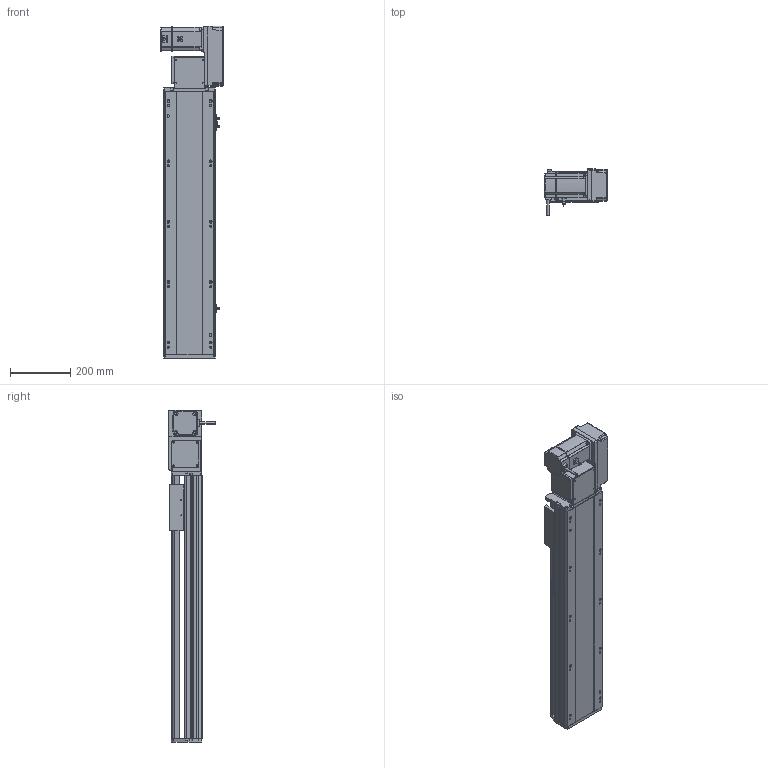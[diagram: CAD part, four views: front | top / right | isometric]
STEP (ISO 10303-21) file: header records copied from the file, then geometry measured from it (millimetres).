
FILE_DESCRIPTION (( 'STEP AP214' ), '1' );
FILE_NAME ('RTB17S-XX-600-R-M75-C4.STEP', '2025-12-12T01:31:15', ( '' ), ( '' ), 'SwSTEP 2.0', 'SolidWorks 2018', '' );
FILE_SCHEMA (( 'AUTOMOTIVE_DESIGN' ));
Length unit declared in the file: millimetre
Products named in the file (15): RTB22S-GY-017P^RTB17S-R-々湍釱蚾饜-750W_RTB17S-XX-XX-R-M75-C4; RTB22S-GY-008-M75--萇儂啣^RTB17S-R-々湍釱蚾饜-750W_RTB17S-XX-XX-R-M75-C4; RTH13-BL-012覜茼え俋离^RTB17S-賑釱_RTB17S-XX-XX-R-M75-C4; RTB17S-XX-600-R-M75-C4; RTB17-R-011菁釱^RTB17S-XX-XX-R-M75-C4; RTB17S-L-014-T20-P75--々湍釱^RTB17S-R-々湍釱蚾饜-750W_RTB17S-XX-XX-R-M75-C4; RTB17S-L-004-賑釱^RTB17S-賑釱_RTB17S-XX-XX-R-M75-C4; RTB17S-L-007奻裔^RTB17S-XX-XX-R-M75-C4; RTB22S-GY-005P^RTB17S-R-々湍釱蚾饜-750W_RTB17S-XX-XX-R-M75-C4; RTB17S-L-001-耜醱啣^RTB17S-XX-XX-R-M75-C4; 750W萇儂^RTB17S-XX-XX-R-M75-C4; RTB22S-GY-018P^RTB17S-R-々湍釱蚾饜-750W_RTB17S-XX-XX-R-M75-C4; RTB17S-R-々湍釱蚾饜-750W^RTB17S-XX-XX-R-M75-C4; EE672^RTB17S-XX-XX-R-M75-C4; RTB17S-賑釱^RTB17S-XX-XX-R-M75-C4
Assembly tree (17 placements, depth 3):
  RTB17S-XX-600-R-M75-C4
    RTB17-R-011菁釱^RTB17S-XX-XX-R-M75-C4
    EE672^RTB17S-XX-XX-R-M75-C4  x3
    RTB17S-L-001-耜醱啣^RTB17S-XX-XX-R-M75-C4
    RTB17S-賑釱^RTB17S-XX-XX-R-M75-C4
      RTB17S-L-004-賑釱^RTB17S-賑釱_RTB17S-XX-XX-R-M75-C4
      RTH13-BL-012覜茼え俋离^RTB17S-賑釱_RTB17S-XX-XX-R-M75-C4
    RTB17S-L-007奻裔^RTB17S-XX-XX-R-M75-C4
    750W萇儂^RTB17S-XX-XX-R-M75-C4
    RTB17S-R-々湍釱蚾饜-750W^RTB17S-XX-XX-R-M75-C4
      RTB17S-L-014-T20-P75--々湍釱^RTB17S-R-々湍釱蚾饜-750W_RTB17S-XX-XX-R-M75-C4
      RTB22S-GY-005P^RTB17S-R-々湍釱蚾饜-750W_RTB17S-XX-XX-R-M75-C4
      RTB22S-GY-017P^RTB17S-R-々湍釱蚾饜-750W_RTB17S-XX-XX-R-M75-C4  x2
      RTB22S-GY-008-M75--萇儂啣^RTB17S-R-々湍釱蚾饜-750W_RTB17S-XX-XX-R-M75-C4
      RTB22S-GY-018P^RTB17S-R-々湍釱蚾饜-750W_RTB17S-XX-XX-R-M75-C4
Bounding box: 207.4 x 152.7 x 1099 mm (x, y, z)
Volume: 9703296.7 mm3; surface area: 1578688.1 mm2
Topology: 17 solids, 17 shells, 2057 faces, 5674 edges, 3662 vertices
Faces by surface type: plane 966, cylinder 675, bspline 294, cone 110, sphere 8, torus 4
Entity records: 56566 total; most frequent: CARTESIAN_POINT 16538, ORIENTED_EDGE 8192, DIRECTION 7682, EDGE_CURVE 4096, AXIS2_PLACEMENT_3D 2682, VERTEX_POINT 2666, VECTOR 2318, LINE 2318
